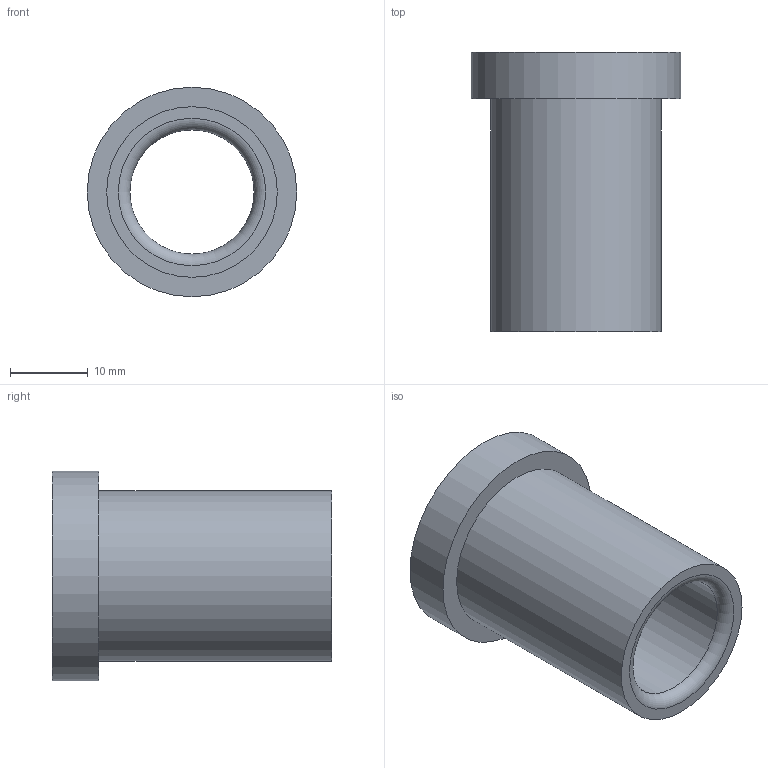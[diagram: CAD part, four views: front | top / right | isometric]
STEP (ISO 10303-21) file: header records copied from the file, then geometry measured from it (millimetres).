
FILE_DESCRIPTION(/* description */ ('STEP AP214'),/* implementation_level */ '2;1');
FILE_NAME(/* name */ '03_12_17914',/* time_stamp */ '2023-06-15T11:35:27+02:00',/* author */ ('License CC BY-ND 4.0'),/* organization */ ('CADENAS'),/* preprocessor_version */ 'ST-DEVELOPER v19.3',/* originating_system */ 'PARTsolutions',/* authorisation */ ' ');
FILE_SCHEMA (('AUTOMOTIVE_DESIGN {1 0 10303 214 3 1 1}'));
Length unit declared in the file: millimetre
Products named in the file (1): VA_Bushing_17914
Bounding box: 27 x 36 x 27 mm (x, y, z)
Volume: 7439 mm3; surface area: 5084.6 mm2
Topology: 1 solids, 1 shells, 10 faces, 16 edges, 10 vertices
Faces by surface type: cylinder 4, plane 4, torus 2
Full cylindrical faces by diameter (mm): 16 x1, 16.6 x1, 22 x1, 27 x1
Entity records: 302 total; most frequent: DIRECTION 42, CARTESIAN_POINT 31, AXIS2_PLACEMENT_3D 21, ORIENTED_EDGE 20, EDGE_LOOP 20, FACE_BOUND 20, EDGE_CURVE 10, VERTEX_POINT 10
